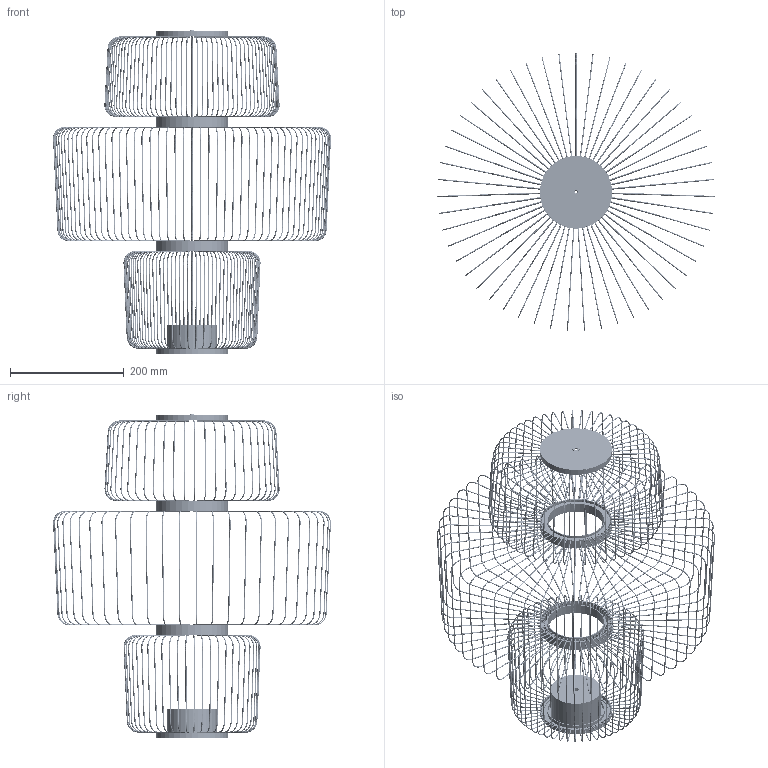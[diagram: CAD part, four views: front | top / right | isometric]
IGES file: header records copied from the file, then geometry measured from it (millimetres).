
Start section: SolidWorks IGES file using analytic representation for surfaces
Global section: file name: Z:\PRODUKT\Modele_3D_WWW\_KOLEKCJE_WWW\_CAMELEON\CAMELEON NOME\CAMELEON NOME A\NL2500014226.IGS; native system: SolidWorks 2024; preprocessor: SolidWorks 2024; author: anna.bielnik; date: 260313.114818; units: millimetre
Bounding box: 489.63 x 489.41 x 571.11 mm (x, y, z)
Surface area: 574727.4 mm2 (no closed solid volume)
Topology: 0 solids, 0 shells, 4450 faces, 43334 edges, 43322 vertices
Faces by surface type: revolution 2646, bspline 1804
